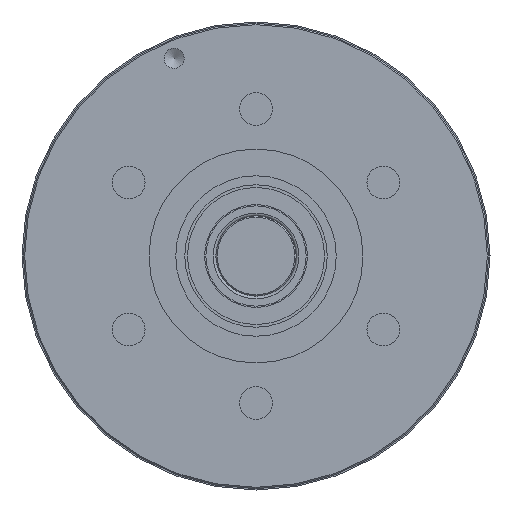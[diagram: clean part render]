
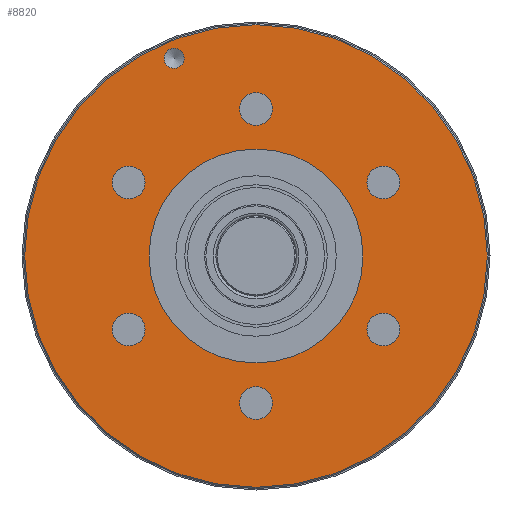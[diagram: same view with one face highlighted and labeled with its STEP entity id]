
A CAD part, left-side view. The second image highlights one B-rep face of the part: STEP entity #8820.
In plain terms, the highlighted planar face has unit normal (-1, 0, 0).
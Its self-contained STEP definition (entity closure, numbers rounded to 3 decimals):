
#167=FACE_BOUND('',#1417,.T.);
#168=FACE_BOUND('',#1418,.T.);
#169=FACE_BOUND('',#1419,.T.);
#170=FACE_BOUND('',#1420,.T.);
#171=FACE_BOUND('',#1421,.T.);
#172=FACE_BOUND('',#1422,.T.);
#173=FACE_BOUND('',#1423,.T.);
#174=FACE_BOUND('',#1424,.T.);
#391=PLANE('',#9844);
#872=FACE_OUTER_BOUND('',#1416,.T.);
#1416=EDGE_LOOP('',(#7569));
#1417=EDGE_LOOP('',(#7570,#7571));
#1418=EDGE_LOOP('',(#7572,#7573));
#1419=EDGE_LOOP('',(#7574,#7575));
#1420=EDGE_LOOP('',(#7576,#7577));
#1421=EDGE_LOOP('',(#7578,#7579));
#1422=EDGE_LOOP('',(#7580,#7581));
#1423=EDGE_LOOP('',(#7582));
#1424=EDGE_LOOP('',(#7583));
#3203=CIRCLE('',#9800,1.23);
#3204=CIRCLE('',#9801,1.23);
#3206=CIRCLE('',#9804,1.23);
#3207=CIRCLE('',#9805,1.23);
#3209=CIRCLE('',#9808,1.23);
#3210=CIRCLE('',#9809,1.23);
#3212=CIRCLE('',#9812,1.23);
#3213=CIRCLE('',#9813,1.23);
#3215=CIRCLE('',#9816,1.23);
#3216=CIRCLE('',#9817,1.23);
#3218=CIRCLE('',#9820,1.23);
#3219=CIRCLE('',#9821,1.23);
#3227=CIRCLE('',#9833,8.);
#3229=CIRCLE('',#9836,17.3);
#3233=CIRCLE('',#9843,0.75);
#3990=VERTEX_POINT('',#15659);
#3991=VERTEX_POINT('',#15660);
#3993=VERTEX_POINT('',#15667);
#3994=VERTEX_POINT('',#15668);
#3996=VERTEX_POINT('',#15675);
#3997=VERTEX_POINT('',#15676);
#3999=VERTEX_POINT('',#15683);
#4000=VERTEX_POINT('',#15684);
#4002=VERTEX_POINT('',#15691);
#4003=VERTEX_POINT('',#15692);
#4005=VERTEX_POINT('',#15699);
#4006=VERTEX_POINT('',#15700);
#4014=VERTEX_POINT('',#15725);
#4016=VERTEX_POINT('',#15731);
#4021=VERTEX_POINT('',#15746);
#5170=EDGE_CURVE('',#3990,#3991,#3203,.T.);
#5171=EDGE_CURVE('',#3991,#3990,#3204,.T.);
#5174=EDGE_CURVE('',#3993,#3994,#3206,.T.);
#5175=EDGE_CURVE('',#3994,#3993,#3207,.T.);
#5178=EDGE_CURVE('',#3996,#3997,#3209,.T.);
#5179=EDGE_CURVE('',#3997,#3996,#3210,.T.);
#5182=EDGE_CURVE('',#3999,#4000,#3212,.T.);
#5183=EDGE_CURVE('',#4000,#3999,#3213,.T.);
#5186=EDGE_CURVE('',#4002,#4003,#3215,.T.);
#5187=EDGE_CURVE('',#4003,#4002,#3216,.T.);
#5190=EDGE_CURVE('',#4005,#4006,#3218,.T.);
#5191=EDGE_CURVE('',#4006,#4005,#3219,.T.);
#5203=EDGE_CURVE('',#4014,#4014,#3227,.T.);
#5207=EDGE_CURVE('',#4016,#4016,#3229,.T.);
#5213=EDGE_CURVE('',#4021,#4021,#3233,.T.);
#7569=ORIENTED_EDGE('',*,*,#5207,.T.);
#7570=ORIENTED_EDGE('',*,*,#5170,.T.);
#7571=ORIENTED_EDGE('',*,*,#5171,.T.);
#7572=ORIENTED_EDGE('',*,*,#5174,.T.);
#7573=ORIENTED_EDGE('',*,*,#5175,.T.);
#7574=ORIENTED_EDGE('',*,*,#5178,.T.);
#7575=ORIENTED_EDGE('',*,*,#5179,.T.);
#7576=ORIENTED_EDGE('',*,*,#5182,.T.);
#7577=ORIENTED_EDGE('',*,*,#5183,.T.);
#7578=ORIENTED_EDGE('',*,*,#5186,.T.);
#7579=ORIENTED_EDGE('',*,*,#5187,.T.);
#7580=ORIENTED_EDGE('',*,*,#5190,.T.);
#7581=ORIENTED_EDGE('',*,*,#5191,.T.);
#7582=ORIENTED_EDGE('',*,*,#5203,.T.);
#7583=ORIENTED_EDGE('',*,*,#5213,.T.);
#8820=ADVANCED_FACE('',(#872,#167,#168,#169,#170,#171,#172,#173,#174),#391,
 .T.);
#9800=AXIS2_PLACEMENT_3D('',#15661,#12351,#12352);
#9801=AXIS2_PLACEMENT_3D('',#15662,#12353,#12354);
#9804=AXIS2_PLACEMENT_3D('',#15669,#12360,#12361);
#9805=AXIS2_PLACEMENT_3D('',#15670,#12362,#12363);
#9808=AXIS2_PLACEMENT_3D('',#15677,#12369,#12370);
#9809=AXIS2_PLACEMENT_3D('',#15678,#12371,#12372);
#9812=AXIS2_PLACEMENT_3D('',#15685,#12378,#12379);
#9813=AXIS2_PLACEMENT_3D('',#15686,#12380,#12381);
#9816=AXIS2_PLACEMENT_3D('',#15693,#12387,#12388);
#9817=AXIS2_PLACEMENT_3D('',#15694,#12389,#12390);
#9820=AXIS2_PLACEMENT_3D('',#15701,#12396,#12397);
#9821=AXIS2_PLACEMENT_3D('',#15702,#12398,#12399);
#9833=AXIS2_PLACEMENT_3D('',#15726,#12426,#12427);
#9836=AXIS2_PLACEMENT_3D('',#15733,#12434,#12435);
#9843=AXIS2_PLACEMENT_3D('',#15747,#12450,#12451);
#9844=AXIS2_PLACEMENT_3D('',#15749,#12453,#12454);
#12351=DIRECTION('center_axis',(1.,0.,0.));
#12352=DIRECTION('ref_axis',(0.,0.866,0.5));
#12353=DIRECTION('center_axis',(1.,0.,0.));
#12354=DIRECTION('ref_axis',(0.,0.866,0.5));
#12360=DIRECTION('center_axis',(1.,0.,0.));
#12361=DIRECTION('ref_axis',(0.,0.866,-0.5));
#12362=DIRECTION('center_axis',(1.,0.,0.));
#12363=DIRECTION('ref_axis',(0.,0.866,-0.5));
#12369=DIRECTION('center_axis',(1.,0.,0.));
#12370=DIRECTION('ref_axis',(0.,0.,-1.));
#12371=DIRECTION('center_axis',(1.,0.,0.));
#12372=DIRECTION('ref_axis',(0.,0.,-1.));
#12378=DIRECTION('center_axis',(1.,0.,0.));
#12379=DIRECTION('ref_axis',(0.,-0.866,-0.5));
#12380=DIRECTION('center_axis',(1.,0.,0.));
#12381=DIRECTION('ref_axis',(0.,-0.866,-0.5));
#12387=DIRECTION('center_axis',(1.,0.,0.));
#12388=DIRECTION('ref_axis',(0.,-0.866,0.5));
#12389=DIRECTION('center_axis',(1.,0.,0.));
#12390=DIRECTION('ref_axis',(0.,-0.866,0.5));
#12396=DIRECTION('center_axis',(1.,0.,0.));
#12397=DIRECTION('ref_axis',(0.,0.,1.));
#12398=DIRECTION('center_axis',(1.,0.,0.));
#12399=DIRECTION('ref_axis',(0.,0.,1.));
#12426=DIRECTION('center_axis',(1.,0.,0.));
#12427=DIRECTION('ref_axis',(0.,0.,1.));
#12434=DIRECTION('center_axis',(-1.,0.,0.));
#12435=DIRECTION('ref_axis',(0.,0.,1.));
#12450=DIRECTION('center_axis',(1.,0.,0.));
#12451=DIRECTION('ref_axis',(0.,0.383,0.924));
#12453=DIRECTION('center_axis',(-1.,0.,0.));
#12454=DIRECTION('ref_axis',(0.,0.,-1.));
#15659=CARTESIAN_POINT('',(0.,10.591,6.115));
#15660=CARTESIAN_POINT('',(0.,8.462,4.885));
#15661=CARTESIAN_POINT('Origin',(0.,9.526,5.5));
#15662=CARTESIAN_POINT('Origin',(0.,9.526,5.5));
#15667=CARTESIAN_POINT('',(0.,10.591,-6.115));
#15668=CARTESIAN_POINT('',(0.,8.462,-4.885));
#15669=CARTESIAN_POINT('Origin',(0.,9.526,-5.5));
#15670=CARTESIAN_POINT('Origin',(0.,9.526,-5.5));
#15675=CARTESIAN_POINT('',(0.,0.,-12.23));
#15676=CARTESIAN_POINT('',(0.,0.,-9.771));
#15677=CARTESIAN_POINT('Origin',(0.,0.,-11.));
#15678=CARTESIAN_POINT('Origin',(0.,0.,-11.));
#15683=CARTESIAN_POINT('',(0.,-10.591,-6.115));
#15684=CARTESIAN_POINT('',(0.,-8.462,-4.885));
#15685=CARTESIAN_POINT('Origin',(0.,-9.526,-5.5));
#15686=CARTESIAN_POINT('Origin',(0.,-9.526,-5.5));
#15691=CARTESIAN_POINT('',(0.,-10.591,6.115));
#15692=CARTESIAN_POINT('',(0.,-8.462,4.885));
#15693=CARTESIAN_POINT('Origin',(0.,-9.526,5.5));
#15694=CARTESIAN_POINT('Origin',(0.,-9.526,5.5));
#15699=CARTESIAN_POINT('',(0.,0.,12.23));
#15700=CARTESIAN_POINT('',(0.,0.,9.771));
#15701=CARTESIAN_POINT('Origin',(0.,0.,11.));
#15702=CARTESIAN_POINT('Origin',(0.,0.,11.));
#15725=CARTESIAN_POINT('',(0.,0.,-8.));
#15726=CARTESIAN_POINT('Origin',(0.,0.,0.));
#15731=CARTESIAN_POINT('',(0.,0.,-17.3));
#15733=CARTESIAN_POINT('Origin',(0.,0.,0.));
#15746=CARTESIAN_POINT('',(0.,5.836,14.089));
#15747=CARTESIAN_POINT('Origin',(0.,6.123,14.782));
#15749=CARTESIAN_POINT('Origin',(0.,0.,12.7));
